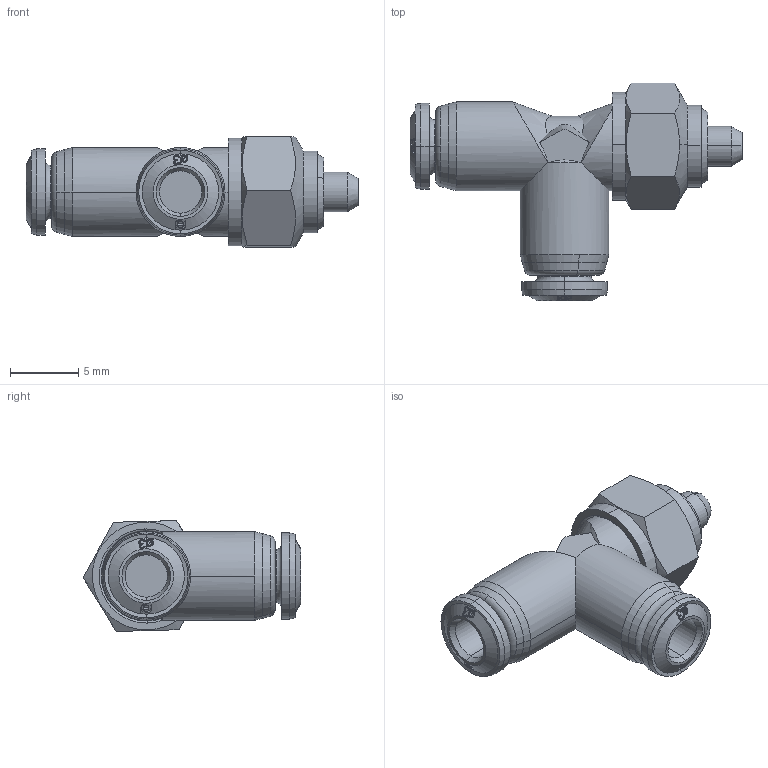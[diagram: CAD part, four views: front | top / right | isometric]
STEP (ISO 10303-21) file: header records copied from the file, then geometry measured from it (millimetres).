
FILE_DESCRIPTION (( 'STEP AP214' ), '1' );
FILE_NAME ('5622500003.step', '2012-10-22T17:00:49', ( '' ), ( '' ), 'SwSTEP 2.0', 'SolidWorks 2012', '' );
FILE_SCHEMA (( 'AUTOMOTIVE_DESIGN' ));
Length unit declared in the file: millimetre
Products named in the file (1): 5622500003
Bounding box: 24.32 x 15.94 x 8.12 mm (x, y, z)
Volume: 982.6 mm3; surface area: 953 mm2
Topology: 2 solids, 2 shells, 247 faces, 648 edges, 423 vertices
Faces by surface type: bspline 114, cone 63, cylinder 29, plane 27, torus 14
Entity records: 14114 total; most frequent: CARTESIAN_POINT 6330, ORIENTED_EDGE 1296, EDGE_CURVE 648, DIRECTION 623, VERTEX_POINT 423, B_SPLINE_CURVE_WITH_KNOTS 416, EDGE_LOOP 267, AXIS2_PLACEMENT_3D 265
